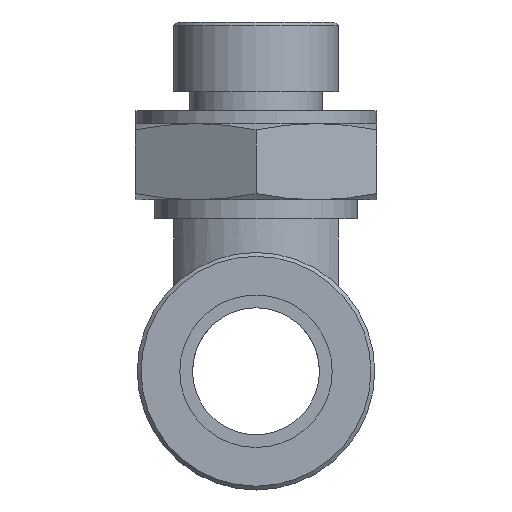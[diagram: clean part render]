
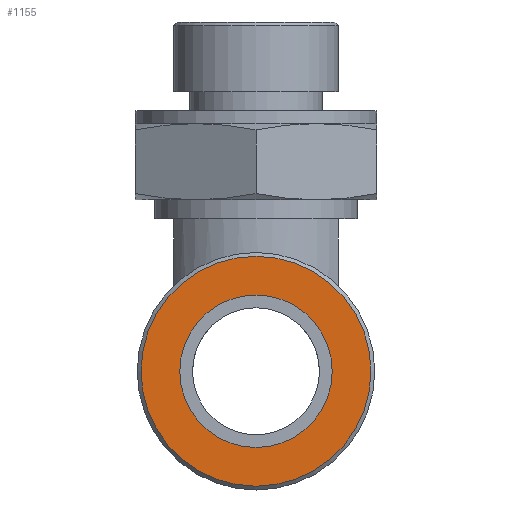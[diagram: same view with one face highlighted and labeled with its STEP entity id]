
A CAD part, front view. The second image highlights one B-rep face of the part: STEP entity #1155.
In plain terms, the highlighted planar face has unit normal (0, -1, 0).
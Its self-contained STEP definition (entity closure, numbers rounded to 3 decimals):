
#44=FACE_BOUND('',#352,.T.);
#198=PLANE('',#1370);
#263=FACE_OUTER_BOUND('',#351,.T.);
#351=EDGE_LOOP('',(#993));
#352=EDGE_LOOP('',(#994));
#418=CIRCLE('',#1313,6.);
#443=CIRCLE('',#1367,9.05);
#540=VERTEX_POINT('',#2017);
#571=VERTEX_POINT('',#2127);
#665=EDGE_CURVE('',#540,#540,#418,.T.);
#718=EDGE_CURVE('',#571,#571,#443,.T.);
#993=ORIENTED_EDGE('',*,*,#718,.F.);
#994=ORIENTED_EDGE('',*,*,#665,.T.);
#1155=ADVANCED_FACE('',(#263,#44),#198,.F.);
#1313=AXIS2_PLACEMENT_3D('',#2018,#1564,#1565);
#1367=AXIS2_PLACEMENT_3D('',#2129,#1698,#1699);
#1370=AXIS2_PLACEMENT_3D('',#2134,#1705,#1706);
#1564=DIRECTION('center_axis',(0.,1.,0.));
#1565=DIRECTION('ref_axis',(1.,0.,0.));
#1698=DIRECTION('center_axis',(0.,1.,0.));
#1699=DIRECTION('ref_axis',(-1.,0.,0.));
#1705=DIRECTION('center_axis',(0.,1.,0.));
#1706=DIRECTION('ref_axis',(0.,0.,1.));
#2017=CARTESIAN_POINT('',(-6.,-28.,0.));
#2018=CARTESIAN_POINT('Origin',(0.,-28.,0.));
#2127=CARTESIAN_POINT('',(9.05,-28.,0.));
#2129=CARTESIAN_POINT('Origin',(0.,-28.,0.));
#2134=CARTESIAN_POINT('Origin',(0.,-28.,0.));
